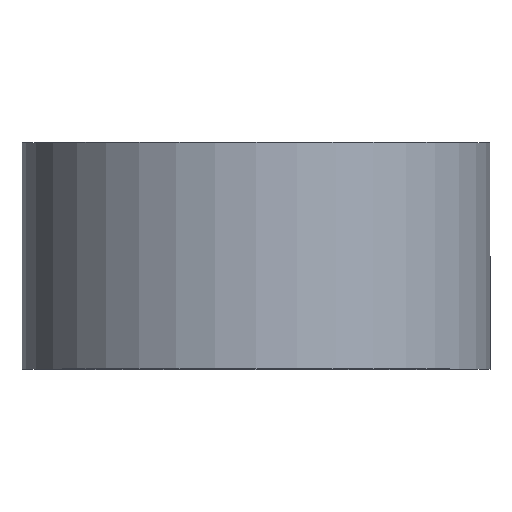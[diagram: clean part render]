
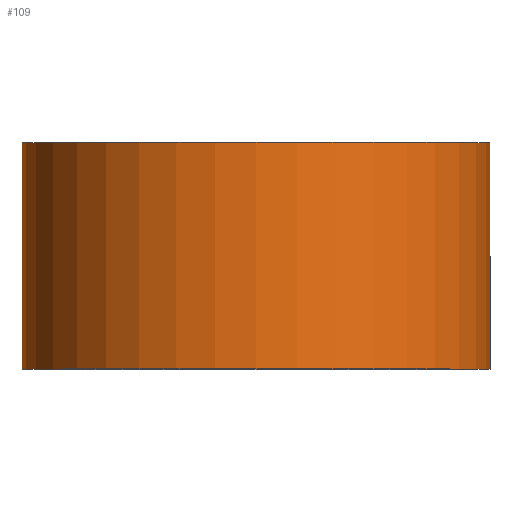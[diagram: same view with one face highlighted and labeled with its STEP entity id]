
A CAD part, top view. The second image highlights one B-rep face of the part: STEP entity #109.
In plain terms, the highlighted cylindrical face has radius 31 mm (diameter 62 mm), a partial arc.
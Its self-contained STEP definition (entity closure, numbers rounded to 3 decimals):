
#14 = DIRECTION ( 'NONE',  ( -1., 0., 0. ) ) ;
#17 = EDGE_CURVE ( 'NONE', #239, #236, #50, .T. ) ;
#19 = LINE ( 'NONE', #59, #73 ) ;
#36 = CARTESIAN_POINT ( 'NONE',  ( 31., 0., 0. ) ) ;
#46 = CYLINDRICAL_SURFACE ( 'NONE', #71, 31. ) ;
#50 = CIRCLE ( 'NONE', #198, 31. ) ;
#54 = ORIENTED_EDGE ( 'NONE', *, *, #276, .F. ) ;
#55 = CARTESIAN_POINT ( 'NONE',  ( -31., 30., 0. ) ) ;
#59 = CARTESIAN_POINT ( 'NONE',  ( -31., 0., 0. ) ) ;
#71 = AXIS2_PLACEMENT_3D ( 'NONE', #282, #237, #98 ) ;
#73 = VECTOR ( 'NONE', #215, 1000. ) ;
#95 = VERTEX_POINT ( 'NONE', #55 ) ;
#97 = ORIENTED_EDGE ( 'NONE', *, *, #221, .F. ) ;
#98 = DIRECTION ( 'NONE',  ( -1., 0., 0. ) ) ;
#100 = DIRECTION ( 'NONE',  ( 0., 1., 0. ) ) ;
#109 = ADVANCED_FACE ( 'NONE', ( #113 ), #46, .T. ) ;
#113 = FACE_OUTER_BOUND ( 'NONE', #153, .T. ) ;
#123 = EDGE_CURVE ( 'NONE', #236, #290, #281, .T. ) ;
#124 = CARTESIAN_POINT ( 'NONE',  ( 0., 0., 0. ) ) ;
#149 = CARTESIAN_POINT ( 'NONE',  ( 0., 30., 0. ) ) ;
#153 = EDGE_LOOP ( 'NONE', ( #301, #220, #97, #54 ) ) ;
#163 = DIRECTION ( 'NONE',  ( -1., 0., 0. ) ) ;
#194 = DIRECTION ( 'NONE',  ( 0., 1., 0. ) ) ;
#195 = CARTESIAN_POINT ( 'NONE',  ( -31., 0., 0. ) ) ;
#198 = AXIS2_PLACEMENT_3D ( 'NONE', #124, #100, #163 ) ;
#201 = CARTESIAN_POINT ( 'NONE',  ( 31., 30., 0. ) ) ;
#215 = DIRECTION ( 'NONE',  ( 0., 1., 0. ) ) ;
#217 = AXIS2_PLACEMENT_3D ( 'NONE', #149, #194, #14 ) ;
#219 = VECTOR ( 'NONE', #267, 1000. ) ;
#220 = ORIENTED_EDGE ( 'NONE', *, *, #123, .T. ) ;
#221 = EDGE_CURVE ( 'NONE', #95, #290, #232, .T. ) ;
#232 = CIRCLE ( 'NONE', #217, 31. ) ;
#236 = VERTEX_POINT ( 'NONE', #36 ) ;
#237 = DIRECTION ( 'NONE',  ( 0., 1., 0. ) ) ;
#239 = VERTEX_POINT ( 'NONE', #195 ) ;
#267 = DIRECTION ( 'NONE',  ( 0., 1., 0. ) ) ;
#271 = CARTESIAN_POINT ( 'NONE',  ( 31., 0., 0. ) ) ;
#276 = EDGE_CURVE ( 'NONE', #239, #95, #19, .T. ) ;
#281 = LINE ( 'NONE', #271, #219 ) ;
#282 = CARTESIAN_POINT ( 'NONE',  ( 0., 0., 0. ) ) ;
#290 = VERTEX_POINT ( 'NONE', #201 ) ;
#301 = ORIENTED_EDGE ( 'NONE', *, *, #17, .T. ) ;
